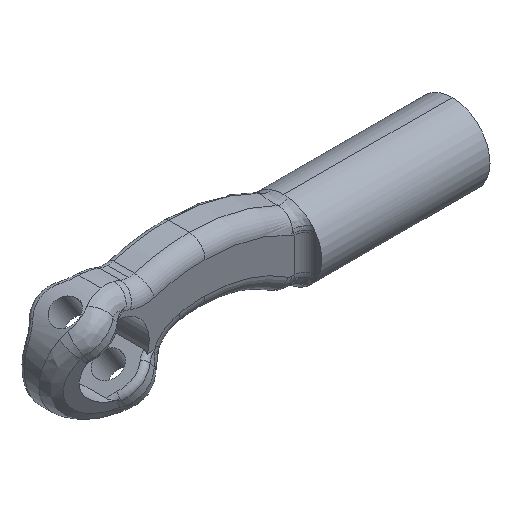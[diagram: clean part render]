
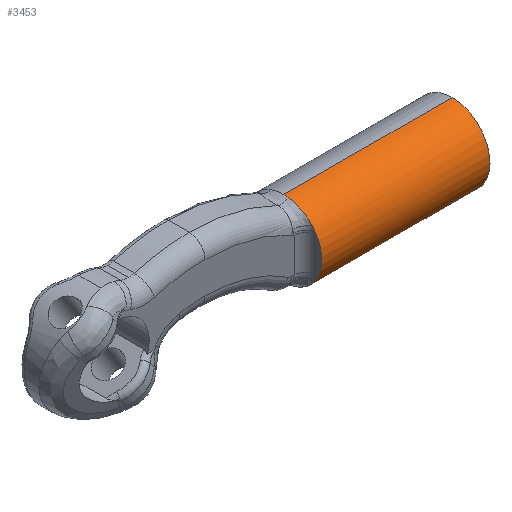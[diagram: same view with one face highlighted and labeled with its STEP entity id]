
A CAD part, isometric view. The second image highlights one B-rep face of the part: STEP entity #3453.
In plain terms, the highlighted cylindrical face has radius 3.606 mm (diameter 7.211 mm), a partial arc.
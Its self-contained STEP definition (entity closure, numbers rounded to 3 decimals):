
#63 = VECTOR ( 'NONE', #2920, 1000. ) ;
#70 = CARTESIAN_POINT ( 'NONE',  ( 18., 0., -3.606 ) ) ;
#167 = ORIENTED_EDGE ( 'NONE', *, *, #2429, .T. ) ;
#236 = DIRECTION ( 'NONE',  ( 0., 0., 1. ) ) ;
#259 = DIRECTION ( 'NONE',  ( -1., 0., 0. ) ) ;
#317 = AXIS2_PLACEMENT_3D ( 'NONE', #3945, #3647, #2387 ) ;
#333 = AXIS2_PLACEMENT_3D ( 'NONE', #357, #671, #1302 ) ;
#357 = CARTESIAN_POINT ( 'NONE',  ( 18., 0., 0. ) ) ;
#413 = DIRECTION ( 'NONE',  ( -1., 0., 0. ) ) ;
#425 = CARTESIAN_POINT ( 'NONE',  ( 34., 0., 0. ) ) ;
#437 = VERTEX_POINT ( 'NONE', #630 ) ;
#500 = FACE_OUTER_BOUND ( 'NONE', #2115, .T. ) ;
#525 = EDGE_CURVE ( 'NONE', #943, #1555, #2192, .T. ) ;
#590 = CIRCLE ( 'NONE', #317, 3.606 ) ;
#618 = CARTESIAN_POINT ( 'NONE',  ( 18., 0., 0. ) ) ;
#630 = CARTESIAN_POINT ( 'NONE',  ( 34., 0., -3.606 ) ) ;
#671 = DIRECTION ( 'NONE',  ( -1., 0., 0. ) ) ;
#702 = CARTESIAN_POINT ( 'NONE',  ( 34., 0., -3.606 ) ) ;
#715 = LINE ( 'NONE', #702, #63 ) ;
#722 = CIRCLE ( 'NONE', #1015, 3.606 ) ;
#738 = VERTEX_POINT ( 'NONE', #2967 ) ;
#787 = CARTESIAN_POINT ( 'NONE',  ( 18., 0., 0. ) ) ;
#848 = CIRCLE ( 'NONE', #2593, 3.606 ) ;
#870 = CARTESIAN_POINT ( 'NONE',  ( 18., 0., 0. ) ) ;
#930 = DIRECTION ( 'NONE',  ( -1., 0., 0. ) ) ;
#943 = VERTEX_POINT ( 'NONE', #1633 ) ;
#1015 = AXIS2_PLACEMENT_3D ( 'NONE', #3408, #2812, #3155 ) ;
#1172 = EDGE_CURVE ( 'NONE', #3592, #2334, #1689, .T. ) ;
#1238 = ORIENTED_EDGE ( 'NONE', *, *, #1517, .F. ) ;
#1296 = EDGE_CURVE ( 'NONE', #738, #2952, #722, .T. ) ;
#1302 = DIRECTION ( 'NONE',  ( 0., 0., 1. ) ) ;
#1347 = VECTOR ( 'NONE', #259, 1000. ) ;
#1377 = ORIENTED_EDGE ( 'NONE', *, *, #3716, .F. ) ;
#1427 = CARTESIAN_POINT ( 'NONE',  ( 18., 0., 3.606 ) ) ;
#1474 = CARTESIAN_POINT ( 'NONE',  ( 18., -2., -3. ) ) ;
#1506 = AXIS2_PLACEMENT_3D ( 'NONE', #870, #4005, #236 ) ;
#1517 = EDGE_CURVE ( 'NONE', #2952, #3592, #848, .T. ) ;
#1555 = VERTEX_POINT ( 'NONE', #1427 ) ;
#1605 = ORIENTED_EDGE ( 'NONE', *, *, #2580, .F. ) ;
#1633 = CARTESIAN_POINT ( 'NONE',  ( 34., 0., 3.606 ) ) ;
#1668 = DIRECTION ( 'NONE',  ( 0., 0., 1. ) ) ;
#1689 = CIRCLE ( 'NONE', #1506, 3.606 ) ;
#1829 = DIRECTION ( 'NONE',  ( -1., 0., 0. ) ) ;
#1964 = CARTESIAN_POINT ( 'NONE',  ( 18., -2.99, 2.014 ) ) ;
#1972 = AXIS2_PLACEMENT_3D ( 'NONE', #2809, #1829, #4033 ) ;
#2032 = CIRCLE ( 'NONE', #4068, 3.606 ) ;
#2053 = CIRCLE ( 'NONE', #3415, 3.606 ) ;
#2084 = DIRECTION ( 'NONE',  ( -1., 0., 0. ) ) ;
#2115 = EDGE_LOOP ( 'NONE', ( #167, #2170, #1605, #1377, #3364, #3839, #1238, #3932, #2568, #2628 ) ) ;
#2118 = CARTESIAN_POINT ( 'NONE',  ( 34., 0., 0. ) ) ;
#2170 = ORIENTED_EDGE ( 'NONE', *, *, #525, .T. ) ;
#2192 = LINE ( 'NONE', #3433, #1347 ) ;
#2243 = AXIS2_PLACEMENT_3D ( 'NONE', #2118, #930, #3377 ) ;
#2334 = VERTEX_POINT ( 'NONE', #1964 ) ;
#2351 = VERTEX_POINT ( 'NONE', #70 ) ;
#2387 = DIRECTION ( 'NONE',  ( 0., 0., 1. ) ) ;
#2429 = EDGE_CURVE ( 'NONE', #437, #943, #2053, .T. ) ;
#2568 = ORIENTED_EDGE ( 'NONE', *, *, #3016, .F. ) ;
#2580 = EDGE_CURVE ( 'NONE', #3736, #1555, #590, .T. ) ;
#2593 = AXIS2_PLACEMENT_3D ( 'NONE', #787, #2084, #2666 ) ;
#2619 = CARTESIAN_POINT ( 'NONE',  ( 18., -2.708, 2.38 ) ) ;
#2628 = ORIENTED_EDGE ( 'NONE', *, *, #3191, .F. ) ;
#2666 = DIRECTION ( 'NONE',  ( 0., 0., 1. ) ) ;
#2809 = CARTESIAN_POINT ( 'NONE',  ( 18., 0., 0. ) ) ;
#2812 = DIRECTION ( 'NONE',  ( -1., 0., 0. ) ) ;
#2920 = DIRECTION ( 'NONE',  ( -1., 0., 0. ) ) ;
#2952 = VERTEX_POINT ( 'NONE', #1474 ) ;
#2967 = CARTESIAN_POINT ( 'NONE',  ( 18., -0.447, -3.578 ) ) ;
#3016 = EDGE_CURVE ( 'NONE', #2351, #738, #3171, .T. ) ;
#3077 = DIRECTION ( 'NONE',  ( 0., 0., 1. ) ) ;
#3155 = DIRECTION ( 'NONE',  ( 0., 0., 1. ) ) ;
#3171 = CIRCLE ( 'NONE', #1972, 3.606 ) ;
#3191 = EDGE_CURVE ( 'NONE', #437, #2351, #715, .T. ) ;
#3206 = VERTEX_POINT ( 'NONE', #2619 ) ;
#3364 = ORIENTED_EDGE ( 'NONE', *, *, #3921, .F. ) ;
#3377 = DIRECTION ( 'NONE',  ( 0., 0., -1. ) ) ;
#3389 = DIRECTION ( 'NONE',  ( -1., 0., 0. ) ) ;
#3408 = CARTESIAN_POINT ( 'NONE',  ( 18., 0., 0. ) ) ;
#3415 = AXIS2_PLACEMENT_3D ( 'NONE', #425, #413, #1668 ) ;
#3433 = CARTESIAN_POINT ( 'NONE',  ( 34., 0., 3.606 ) ) ;
#3453 = ADVANCED_FACE ( 'NONE', ( #500 ), #4079, .T. ) ;
#3592 = VERTEX_POINT ( 'NONE', #3642 ) ;
#3608 = CIRCLE ( 'NONE', #333, 3.606 ) ;
#3642 = CARTESIAN_POINT ( 'NONE',  ( 18., -2.925, -2.108 ) ) ;
#3647 = DIRECTION ( 'NONE',  ( -1., 0., 0. ) ) ;
#3716 = EDGE_CURVE ( 'NONE', #3206, #3736, #3608, .T. ) ;
#3736 = VERTEX_POINT ( 'NONE', #3747 ) ;
#3747 = CARTESIAN_POINT ( 'NONE',  ( 18., -0.409, 3.582 ) ) ;
#3839 = ORIENTED_EDGE ( 'NONE', *, *, #1172, .F. ) ;
#3921 = EDGE_CURVE ( 'NONE', #2334, #3206, #2032, .T. ) ;
#3932 = ORIENTED_EDGE ( 'NONE', *, *, #1296, .F. ) ;
#3945 = CARTESIAN_POINT ( 'NONE',  ( 18., 0., 0. ) ) ;
#4005 = DIRECTION ( 'NONE',  ( -1., 0., 0. ) ) ;
#4033 = DIRECTION ( 'NONE',  ( 0., 0., 1. ) ) ;
#4068 = AXIS2_PLACEMENT_3D ( 'NONE', #618, #3389, #3077 ) ;
#4079 = CYLINDRICAL_SURFACE ( 'NONE', #2243, 3.606 ) ;
